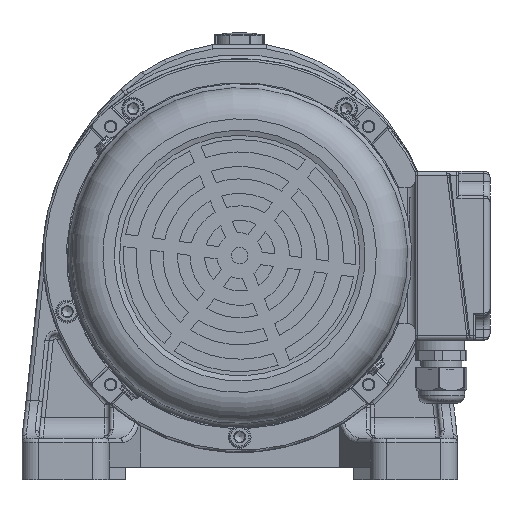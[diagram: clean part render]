
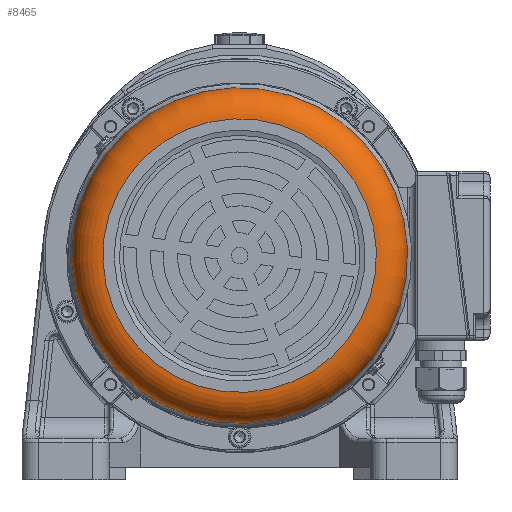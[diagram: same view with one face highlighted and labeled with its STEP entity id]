
A CAD part, left-side view. The second image highlights one B-rep face of the part: STEP entity #8465.
In plain terms, the highlighted toroidal (fillet/blend) face has major radius 66 mm and minor radius 15 mm.
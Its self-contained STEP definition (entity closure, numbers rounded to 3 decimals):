
#957=FACE_BOUND('',#20846,.T.);
#958=FACE_BOUND('',#20847,.T.);
#1520=TOROIDAL_SURFACE('',#90153,66.,15.);
#8465=ADVANCED_FACE('',(#957,#958),#1520,.T.);
#20846=EDGE_LOOP('',(#37275));
#20847=EDGE_LOOP('',(#37276));
#37275=ORIENTED_EDGE('',*,*,#63708,.T.);
#37276=ORIENTED_EDGE('',*,*,#63709,.F.);
#53281=VERTEX_POINT('',#148804);
#53282=VERTEX_POINT('',#148806);
#63708=EDGE_CURVE('',#53281,#53281,#84255,.T.);
#63709=EDGE_CURVE('',#53282,#53282,#84256,.T.);
#84255=CIRCLE('',#90151,66.);
#84256=CIRCLE('',#90152,81.);
#90151=AXIS2_PLACEMENT_3D('',#148803,#106747,#106748);
#90152=AXIS2_PLACEMENT_3D('',#148805,#106749,#106750);
#90153=AXIS2_PLACEMENT_3D('',#148807,#106751,#106752);
#106747=DIRECTION('',(1.,0.,0.));
#106748=DIRECTION('',(0.,0.609,-0.793));
#106749=DIRECTION('',(1.,0.,0.));
#106750=DIRECTION('',(0.,0.609,-0.793));
#106751=DIRECTION('',(1.,0.,0.));
#106752=DIRECTION('',(0.,0.609,-0.793));
#148803=CARTESIAN_POINT('',(1058.565,883.144,-746.184));
#148804=CARTESIAN_POINT('',(1058.565,923.322,-798.546));
#148805=CARTESIAN_POINT('',(1073.565,883.144,-746.184));
#148806=CARTESIAN_POINT('',(1073.565,932.454,-810.446));
#148807=CARTESIAN_POINT('',(1073.565,883.144,-746.184));
